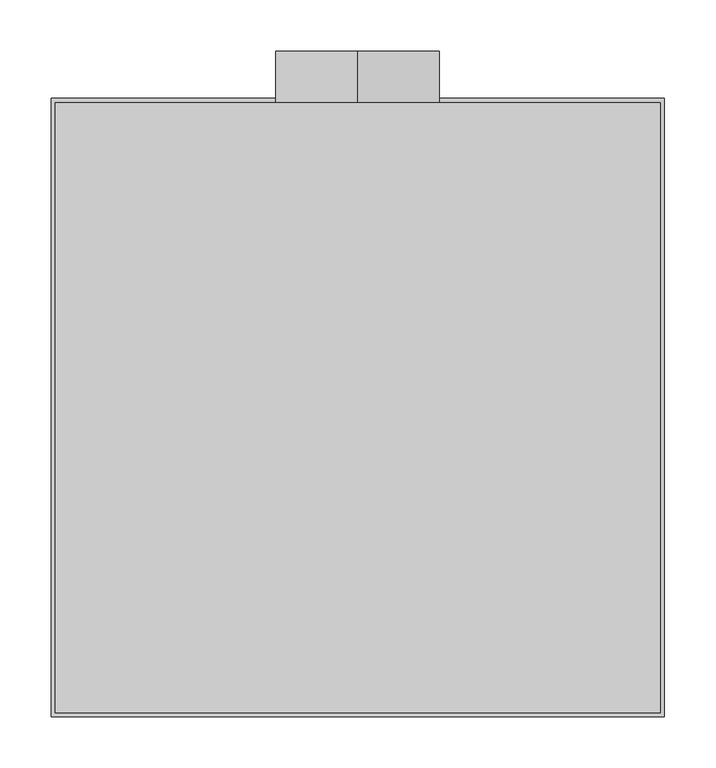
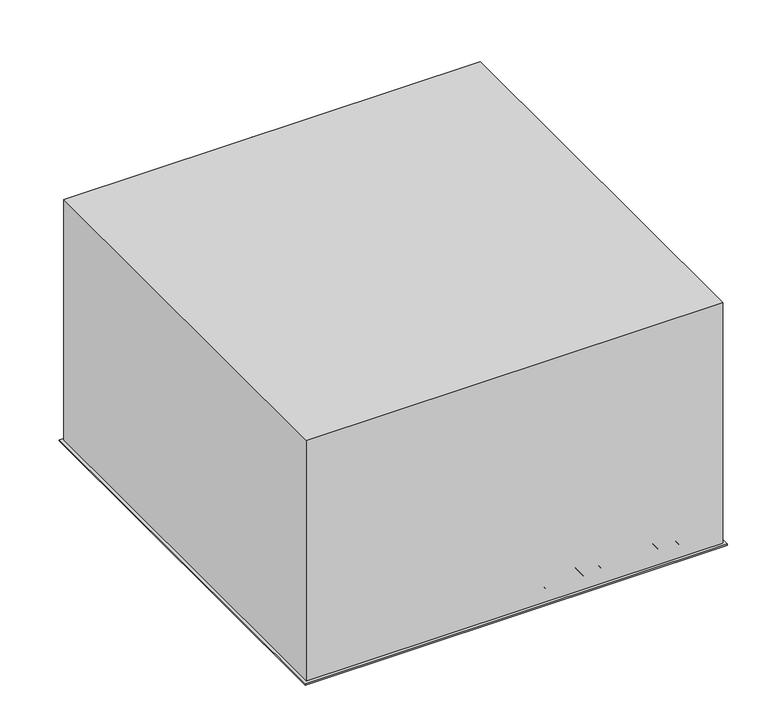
"""IFC4 building model written with IfcOpenShell, lengths in millimetres: air terminal geometry, EOL - plafonnier : EOL-P2-160-600x600."""

from ifc_helpers import new_model, si_unit, point, frame, frame_2d, origin, place, context, project, spatial, polyline, circle_curve, trimmed, segment, composite_curve, outline, extrude, source, transform, mapped, element, save
from ifc_brep_helpers import plane_surface, revolved_surface, advanced_brep


def air_terminal_b541fa91(model_context):
    return source(origin(), model_context, "Body", "SolidModel", [
        extrude(outline(composite_curve([segment(polyline([(1.0, 69.6874144), (2.0025269, 69.6874144)]), True, "CONTINUOUS"), segment(trimmed(circle_curve(frame_2d((31.0266548, 71.7874144)), 29.1), [point((2.0025269, 69.6874144))], [point((26.77286, 43.0))], True, "CARTESIAN"), True, "CONTINUOUS"), segment(polyline([(26.77286, 43.0), (35.0, 43.0), (35.0, 42.0), (26.7, 42.0)]), True, "CONTINUOUS"), segment(trimmed(circle_curve(frame_2d((31.0266548, 71.7874144)), 30.1), [point((26.7, 42.0))], [point((1.0, 69.6874144))], False, "CARTESIAN"), True, "CONTINUOUS")], self_intersect=False)), frame((0.0, 6.1874144, 0.0), z_axis=(0.0, 1.0, 0.0), x_axis=(0.0, 0.0, 1.0)), (0.0, 0.0, 1.0), 572.6251712),
        extrude(outline(composite_curve([segment(polyline([(1.0, 96.6874144), (2.0025269, 96.6874144)]), True, "CONTINUOUS"), segment(trimmed(circle_curve(frame_2d((31.0266548, 98.7874144)), 29.1), [point((2.0025269, 96.6874144))], [point((26.77286, 70.0))], True, "CARTESIAN"), True, "CONTINUOUS"), segment(polyline([(26.77286, 70.0), (35.0, 70.0), (35.0, 69.0), (26.7, 69.0)]), True, "CONTINUOUS"), segment(trimmed(circle_curve(frame_2d((31.0266548, 98.7874144)), 30.1), [point((26.7, 69.0))], [point((1.0, 96.6874144))], False, "CARTESIAN"), True, "CONTINUOUS")], self_intersect=False)), frame((0.0, 6.1874144, 0.0), z_axis=(0.0, 1.0, 0.0), x_axis=(0.0, 0.0, 1.0)), (0.0, 0.0, 1.0), 572.6251712),
        extrude(outline(composite_curve([segment(polyline([(1.0, 123.6874144), (2.0025269, 123.6874144)]), True, "CONTINUOUS"), segment(trimmed(circle_curve(frame_2d((31.0266548, 125.7874144)), 29.1), [point((2.0025269, 123.6874144))], [point((26.77286, 97.0))], True, "CARTESIAN"), True, "CONTINUOUS"), segment(polyline([(26.77286, 97.0), (35.0, 97.0), (35.0, 96.0), (26.7, 96.0)]), True, "CONTINUOUS"), segment(trimmed(circle_curve(frame_2d((31.0266548, 125.7874144)), 30.1), [point((26.7, 96.0))], [point((1.0, 123.6874144))], False, "CARTESIAN"), True, "CONTINUOUS")], self_intersect=False)), frame((0.0, 6.1874144, 0.0), z_axis=(0.0, 1.0, 0.0), x_axis=(0.0, 0.0, 1.0)), (0.0, 0.0, 1.0), 572.6251712),
        extrude(outline(composite_curve([segment(polyline([(1.0, 150.6874144), (2.0025269, 150.6874144)]), True, "CONTINUOUS"), segment(trimmed(circle_curve(frame_2d((31.0266548, 152.7874144)), 29.1), [point((2.0025269, 150.6874144))], [point((26.77286, 124.0))], True, "CARTESIAN"), True, "CONTINUOUS"), segment(polyline([(26.77286, 124.0), (35.0, 124.0), (35.0, 123.0), (26.7, 123.0)]), True, "CONTINUOUS"), segment(trimmed(circle_curve(frame_2d((31.0266548, 152.7874144)), 30.1), [point((26.7, 123.0))], [point((1.0, 150.6874144))], False, "CARTESIAN"), True, "CONTINUOUS")], self_intersect=False)), frame((0.0, 6.1874144, 0.0), z_axis=(0.0, 1.0, 0.0), x_axis=(0.0, 0.0, 1.0)), (0.0, 0.0, 1.0), 572.6251712),
        extrude(outline(composite_curve([segment(polyline([(1.0, 177.6874144), (2.0025269, 177.6874144)]), True, "CONTINUOUS"), segment(trimmed(circle_curve(frame_2d((31.0266548, 179.7874144)), 29.1), [point((2.0025269, 177.6874144))], [point((26.77286, 151.0))], True, "CARTESIAN"), True, "CONTINUOUS"), segment(polyline([(26.77286, 151.0), (35.0, 151.0), (35.0, 150.0), (26.7, 150.0)]), True, "CONTINUOUS"), segment(trimmed(circle_curve(frame_2d((31.0266548, 179.7874144)), 30.1), [point((26.7, 150.0))], [point((1.0, 177.6874144))], False, "CARTESIAN"), True, "CONTINUOUS")], self_intersect=False)), frame((0.0, 6.1874144, 0.0), z_axis=(0.0, 1.0, 0.0), x_axis=(0.0, 0.0, 1.0)), (0.0, 0.0, 1.0), 572.6251712),
        extrude(outline(composite_curve([segment(polyline([(1.0, 204.6874144), (2.0025269, 204.6874144)]), True, "CONTINUOUS"), segment(trimmed(circle_curve(frame_2d((31.0266548, 206.7874144)), 29.1), [point((2.0025269, 204.6874144))], [point((26.77286, 178.0))], True, "CARTESIAN"), True, "CONTINUOUS"), segment(polyline([(26.77286, 178.0), (35.0, 178.0), (35.0, 177.0), (26.7, 177.0)]), True, "CONTINUOUS"), segment(trimmed(circle_curve(frame_2d((31.0266548, 206.7874144)), 30.1), [point((26.7, 177.0))], [point((1.0, 204.6874144))], False, "CARTESIAN"), True, "CONTINUOUS")], self_intersect=False)), frame((0.0, 6.1874144, 0.0), z_axis=(0.0, 1.0, 0.0), x_axis=(0.0, 0.0, 1.0)), (0.0, 0.0, 1.0), 572.6251712),
        extrude(outline(composite_curve([segment(polyline([(1.0, 231.6874144), (2.0025269, 231.6874144)]), True, "CONTINUOUS"), segment(trimmed(circle_curve(frame_2d((31.0266548, 233.7874144)), 29.1), [point((2.0025269, 231.6874144))], [point((26.77286, 205.0))], True, "CARTESIAN"), True, "CONTINUOUS"), segment(polyline([(26.77286, 205.0), (35.0, 205.0), (35.0, 204.0), (26.7, 204.0)]), True, "CONTINUOUS"), segment(trimmed(circle_curve(frame_2d((31.0266548, 233.7874144)), 30.1), [point((26.7, 204.0))], [point((1.0, 231.6874144))], False, "CARTESIAN"), True, "CONTINUOUS")], self_intersect=False)), frame((0.0, 6.1874144, 0.0), z_axis=(0.0, 1.0, 0.0), x_axis=(0.0, 0.0, 1.0)), (0.0, 0.0, 1.0), 572.6251712),
        extrude(outline(composite_curve([segment(polyline([(1.0, 258.6874144), (2.0025269, 258.6874144)]), True, "CONTINUOUS"), segment(trimmed(circle_curve(frame_2d((31.0266548, 260.7874144)), 29.1), [point((2.0025269, 258.6874144))], [point((26.77286, 232.0))], True, "CARTESIAN"), True, "CONTINUOUS"), segment(polyline([(26.77286, 232.0), (35.0, 232.0), (35.0, 231.0), (26.7, 231.0)]), True, "CONTINUOUS"), segment(trimmed(circle_curve(frame_2d((31.0266548, 260.7874144)), 30.1), [point((26.7, 231.0))], [point((1.0, 258.6874144))], False, "CARTESIAN"), True, "CONTINUOUS")], self_intersect=False)), frame((0.0, 6.1874144, 0.0), z_axis=(0.0, 1.0, 0.0), x_axis=(0.0, 0.0, 1.0)), (0.0, 0.0, 1.0), 572.6251712),
        extrude(outline(composite_curve([segment(polyline([(1.0, 285.6874144), (2.0025269, 285.6874144)]), True, "CONTINUOUS"), segment(trimmed(circle_curve(frame_2d((31.0266548, 287.7874144)), 29.1), [point((2.0025269, 285.6874144))], [point((26.77286, 259.0))], True, "CARTESIAN"), True, "CONTINUOUS"), segment(polyline([(26.77286, 259.0), (35.0, 259.0), (35.0, 258.0), (26.7, 258.0)]), True, "CONTINUOUS"), segment(trimmed(circle_curve(frame_2d((31.0266548, 287.7874144)), 30.1), [point((26.7, 258.0))], [point((1.0, 285.6874144))], False, "CARTESIAN"), True, "CONTINUOUS")], self_intersect=False)), frame((0.0, 6.1874144, 0.0), z_axis=(0.0, 1.0, 0.0), x_axis=(0.0, 0.0, 1.0)), (0.0, 0.0, 1.0), 572.6251712),
        extrude(outline(composite_curve([segment(trimmed(circle_curve(frame_2d((31.0266548, -71.7874144)), 30.1), [point((1.0, -69.6874144))], [point((26.7, -42.0))], False, "CARTESIAN"), True, "CONTINUOUS"), segment(polyline([(26.7, -42.0), (35.0, -42.0), (35.0, -43.0), (26.77286, -43.0)]), True, "CONTINUOUS"), segment(trimmed(circle_curve(frame_2d((31.0266548, -71.7874144)), 29.1), [point((26.77286, -43.0))], [point((2.0025269, -69.6874144))], True, "CARTESIAN"), True, "CONTINUOUS"), segment(polyline([(2.0025269, -69.6874144), (1.0, -69.6874144)]), True, "CONTINUOUS")], self_intersect=False)), frame((0.0, 6.1874144, 0.0), z_axis=(0.0, 1.0, 0.0), x_axis=(0.0, 0.0, 1.0)), (0.0, 0.0, 1.0), 572.6251712),
        extrude(outline(composite_curve([segment(trimmed(circle_curve(frame_2d((31.0266548, -98.7874144)), 30.1), [point((1.0, -96.6874144))], [point((26.7, -69.0))], False, "CARTESIAN"), True, "CONTINUOUS"), segment(polyline([(26.7, -69.0), (35.0, -69.0), (35.0, -70.0), (26.77286, -70.0)]), True, "CONTINUOUS"), segment(trimmed(circle_curve(frame_2d((31.0266548, -98.7874144)), 29.1), [point((26.77286, -70.0))], [point((2.0025269, -96.6874144))], True, "CARTESIAN"), True, "CONTINUOUS"), segment(polyline([(2.0025269, -96.6874144), (1.0, -96.6874144)]), True, "CONTINUOUS")], self_intersect=False)), frame((0.0, 6.1874144, 0.0), z_axis=(0.0, 1.0, 0.0), x_axis=(0.0, 0.0, 1.0)), (0.0, 0.0, 1.0), 572.6251712),
        extrude(outline(composite_curve([segment(trimmed(circle_curve(frame_2d((31.0266548, -125.7874144)), 30.1), [point((1.0, -123.6874144))], [point((26.7, -96.0))], False, "CARTESIAN"), True, "CONTINUOUS"), segment(polyline([(26.7, -96.0), (35.0, -96.0), (35.0, -97.0), (26.77286, -97.0)]), True, "CONTINUOUS"), segment(trimmed(circle_curve(frame_2d((31.0266548, -125.7874144)), 29.1), [point((26.77286, -97.0))], [point((2.0025269, -123.6874144))], True, "CARTESIAN"), True, "CONTINUOUS"), segment(polyline([(2.0025269, -123.6874144), (1.0, -123.6874144)]), True, "CONTINUOUS")], self_intersect=False)), frame((0.0, 6.1874144, 0.0), z_axis=(0.0, 1.0, 0.0), x_axis=(0.0, 0.0, 1.0)), (0.0, 0.0, 1.0), 572.6251712),
        extrude(outline(composite_curve([segment(trimmed(circle_curve(frame_2d((31.0266548, -152.7874144)), 30.1), [point((1.0, -150.6874144))], [point((26.7, -123.0))], False, "CARTESIAN"), True, "CONTINUOUS"), segment(polyline([(26.7, -123.0), (35.0, -123.0), (35.0, -124.0), (26.77286, -124.0)]), True, "CONTINUOUS"), segment(trimmed(circle_curve(frame_2d((31.0266548, -152.7874144)), 29.1), [point((26.77286, -124.0))], [point((2.0025269, -150.6874144))], True, "CARTESIAN"), True, "CONTINUOUS"), segment(polyline([(2.0025269, -150.6874144), (1.0, -150.6874144)]), True, "CONTINUOUS")], self_intersect=False)), frame((0.0, 6.1874144, 0.0), z_axis=(0.0, 1.0, 0.0), x_axis=(0.0, 0.0, 1.0)), (0.0, 0.0, 1.0), 572.6251712),
        extrude(outline(composite_curve([segment(trimmed(circle_curve(frame_2d((31.0266548, -179.7874144)), 30.1), [point((1.0, -177.6874144))], [point((26.7, -150.0))], False, "CARTESIAN"), True, "CONTINUOUS"), segment(polyline([(26.7, -150.0), (35.0, -150.0), (35.0, -151.0), (26.77286, -151.0)]), True, "CONTINUOUS"), segment(trimmed(circle_curve(frame_2d((31.0266548, -179.7874144)), 29.1), [point((26.77286, -151.0))], [point((2.0025269, -177.6874144))], True, "CARTESIAN"), True, "CONTINUOUS"), segment(polyline([(2.0025269, -177.6874144), (1.0, -177.6874144)]), True, "CONTINUOUS")], self_intersect=False)), frame((0.0, 6.1874144, 0.0), z_axis=(0.0, 1.0, 0.0), x_axis=(0.0, 0.0, 1.0)), (0.0, 0.0, 1.0), 572.6251712),
        extrude(outline(composite_curve([segment(trimmed(circle_curve(frame_2d((31.0266548, -206.7874144)), 30.1), [point((1.0, -204.6874144))], [point((26.7, -177.0))], False, "CARTESIAN"), True, "CONTINUOUS"), segment(polyline([(26.7, -177.0), (35.0, -177.0), (35.0, -178.0), (26.77286, -178.0)]), True, "CONTINUOUS"), segment(trimmed(circle_curve(frame_2d((31.0266548, -206.7874144)), 29.1), [point((26.77286, -178.0))], [point((2.0025269, -204.6874144))], True, "CARTESIAN"), True, "CONTINUOUS"), segment(polyline([(2.0025269, -204.6874144), (1.0, -204.6874144)]), True, "CONTINUOUS")], self_intersect=False)), frame((0.0, 6.1874144, 0.0), z_axis=(0.0, 1.0, 0.0), x_axis=(0.0, 0.0, 1.0)), (0.0, 0.0, 1.0), 572.6251712),
        extrude(outline(composite_curve([segment(trimmed(circle_curve(frame_2d((31.0266548, -233.7874144)), 30.1), [point((1.0, -231.6874144))], [point((26.7, -204.0))], False, "CARTESIAN"), True, "CONTINUOUS"), segment(polyline([(26.7, -204.0), (35.0, -204.0), (35.0, -205.0), (26.77286, -205.0)]), True, "CONTINUOUS"), segment(trimmed(circle_curve(frame_2d((31.0266548, -233.7874144)), 29.1), [point((26.77286, -205.0))], [point((2.0025269, -231.6874144))], True, "CARTESIAN"), True, "CONTINUOUS"), segment(polyline([(2.0025269, -231.6874144), (1.0, -231.6874144)]), True, "CONTINUOUS")], self_intersect=False)), frame((0.0, 6.1874144, 0.0), z_axis=(0.0, 1.0, 0.0), x_axis=(0.0, 0.0, 1.0)), (0.0, 0.0, 1.0), 572.6251712),
        extrude(outline(composite_curve([segment(trimmed(circle_curve(frame_2d((31.0266548, -260.7874144)), 30.1), [point((1.0, -258.6874144))], [point((26.7, -231.0))], False, "CARTESIAN"), True, "CONTINUOUS"), segment(polyline([(26.7, -231.0), (35.0, -231.0), (35.0, -232.0), (26.77286, -232.0)]), True, "CONTINUOUS"), segment(trimmed(circle_curve(frame_2d((31.0266548, -260.7874144)), 29.1), [point((26.77286, -232.0))], [point((2.0025269, -258.6874144))], True, "CARTESIAN"), True, "CONTINUOUS"), segment(polyline([(2.0025269, -258.6874144), (1.0, -258.6874144)]), True, "CONTINUOUS")], self_intersect=False)), frame((0.0, 6.1874144, 0.0), z_axis=(0.0, 1.0, 0.0), x_axis=(0.0, 0.0, 1.0)), (0.0, 0.0, 1.0), 572.6251712),
        extrude(outline(polyline([(42.0, 578.8125856), (42.0, 6.1874144), (-42.0, 6.1874144), (-42.0, 578.8125856), (42.0, 578.8125856)])), frame((0.0, 0.0, 1.0), z_axis=(0.0, 0.0, 1.0), x_axis=(1.0, 0.0, 0.0)), (0.0, 0.0, 1.0), 1.0025269),
        extrude(outline(composite_curve([segment(trimmed(circle_curve(frame_2d((31.0266548, -287.7874144)), 30.1), [point((1.0, -285.6874144))], [point((26.7, -258.0))], False, "CARTESIAN"), True, "CONTINUOUS"), segment(polyline([(26.7, -258.0), (35.0, -258.0), (35.0, -259.0), (26.77286, -259.0)]), True, "CONTINUOUS"), segment(trimmed(circle_curve(frame_2d((31.0266548, -287.7874144)), 29.1), [point((26.77286, -259.0))], [point((2.0025269, -285.6874144))], True, "CARTESIAN"), True, "CONTINUOUS"), segment(polyline([(2.0025269, -285.6874144), (1.0, -285.6874144)]), True, "CONTINUOUS")], self_intersect=False)), frame((0.0, 6.1874144, 0.0), z_axis=(0.0, 1.0, 0.0), x_axis=(0.0, 0.0, 1.0)), (0.0, 0.0, 1.0), 572.6251712),
        extrude(outline(polyline([(299.0, 594.0), (299.0, -9.0), (-299.0, -9.0), (-299.0, 594.0), (299.0, 594.0)]), holes=[polyline([(290.0, 585.0), (-290.0, 585.0), (-290.0, 0.0), (290.0, 0.0), (290.0, 585.0)])]), frame((0.0, 0.0, -2.0), z_axis=(0.0, 0.0, 1.0), x_axis=(1.0, 0.0, 0.0)), (0.0, 0.0, 1.0), 2.0),
        extrude(outline(composite_curve([segment(trimmed(circle_curve(frame_2d((241.0, 0.0)), 80.0), [point((161.0, 0.0))], [point((321.0, 0.0))], False, "CARTESIAN"), True, "CONTINUOUS"), segment(trimmed(circle_curve(frame_2d((241.0, 0.0)), 80.0), [point((321.0, 0.0))], [point((161.0, 0.0))], False, "CARTESIAN"), True, "CONTINUOUS")], self_intersect=False), holes=[composite_curve([segment(trimmed(circle_curve(frame_2d((241.0, 0.0)), 79.0), [point((241.0, 79.0))], [point((241.0, -79.0))], True, "CARTESIAN"), True, "CONTINUOUS"), segment(trimmed(circle_curve(frame_2d((241.0, 0.0)), 79.0), [point((241.0, -79.0))], [point((241.0, 79.0))], True, "CARTESIAN"), True, "CONTINUOUS")], self_intersect=False)]), frame((0.0, 590.0, 0.0), z_axis=(0.0, 1.0, 0.0), x_axis=(0.0, 0.0, 1.0)), (0.0, 0.0, 1.0), 50.0),
        advanced_brep(
        [(295.0, 590.0, 361.0), (-295.0, 590.0, 361.0), (-295.0, -5.0, 361.0), (295.0, -5.0, 361.0), (295.0, 590.0, 0.0), (295.0, -5.0, 0.0), (-295.0, -5.0, 0.0), (-295.0, 590.0, 0.0), (290.0, 585.0, 0.0), (-290.0, 585.0, 0.0), (-290.0, 0.0, 0.0), (290.0, 0.0, 0.0), (-79.0, 590.0, 241.0), (79.0, 590.0, 241.0), (290.0, 585.0, 356.0), (290.0, 0.0, 356.0), (-290.0, 0.0, 356.0), (-290.0, 585.0, 356.0), (79.0, 585.0, 241.0), (-79.0, 585.0, 241.0)],
        [
            (0, 1),
            (1, 2),
            (2, 3),
            (3, 0),
            (4, 5),
            (5, 6),
            (6, 7),
            (7, 4),
            (8, 9),
            (9, 10),
            (10, 11),
            (11, 8),
            (0, 4),
            (7, 1),
            (12, 13, circle_curve(frame((0.0, 590.0, 241.0), z_axis=(0.0, -1.0, 0.0), x_axis=(1.0, 0.0, 0.0)), 79.0)),
            (13, 12, circle_curve(frame((0.0, 590.0, 241.0), z_axis=(0.0, -1.0, 0.0), x_axis=(1.0, 0.0, 0.0)), 79.0)),
            (6, 2),
            (5, 3),
            (14, 15),
            (15, 16),
            (16, 17),
            (17, 14),
            (17, 9),
            (8, 14),
            (18, 19, circle_curve(frame((0.0, 585.0, 241.0), z_axis=(0.0, 1.0, 0.0), x_axis=(1.0, 0.0, 0.0)), 79.0)),
            (19, 18, circle_curve(frame((0.0, 585.0, 241.0), z_axis=(0.0, 1.0, 0.0), x_axis=(1.0, 0.0, 0.0)), 79.0)),
            (16, 10),
            (15, 11),
            (12, 19),
            (18, 13),
        ],
        [
            plane_surface(frame((-295.0, 590.0, 361.0), z_axis=(0.0, 0.0, 1.0), x_axis=(-1.0, 0.0, 0.0))),
            plane_surface(frame((-295.0, 590.0, 0.0), z_axis=(0.0, 0.0, -1.0), x_axis=(1.0, 0.0, 0.0))),
            plane_surface(frame((295.0, 590.0, 361.0), z_axis=(0.0, 1.0, 0.0), x_axis=(0.0, 0.0, -1.0))),
            plane_surface(frame((-295.0, 590.0, 361.0), z_axis=(-1.0, 0.0, 0.0), x_axis=(0.0, 0.0, -1.0))),
            plane_surface(frame((-295.0, -5.0, 361.0), z_axis=(0.0, -1.0, 0.0), x_axis=(0.0, 0.0, -1.0))),
            plane_surface(frame((295.0, -5.0, 361.0), z_axis=(1.0, 0.0, 0.0), x_axis=(0.0, 0.0, -1.0))),
            plane_surface(frame((-290.0, 585.0, 356.0), z_axis=(0.0, 0.0, -1.0), x_axis=(-1.0, 0.0, 0.0))),
            plane_surface(frame((290.0, 585.0, 356.0), z_axis=(0.0, -1.0, 0.0), x_axis=(0.0, 0.0, -1.0))),
            plane_surface(frame((-290.0, 585.0, 356.0), z_axis=(1.0, 0.0, 0.0), x_axis=(0.0, 0.0, -1.0))),
            plane_surface(frame((-290.0, 0.0, 356.0), z_axis=(0.0, 1.0, 0.0), x_axis=(0.0, 0.0, -1.0))),
            plane_surface(frame((290.0, 0.0, 356.0), z_axis=(-1.0, 0.0, 0.0), x_axis=(0.0, 0.0, -1.0))),
            revolved_surface(polyline([(79.0, 585.0, 241.0), (79.0, 590.0, 241.0)]), (0.0, 640.0, 241.0), (0.0, -1.0, 0.0)),
        ],
        [
            (0, [[1, 2, 3, 4]]),
            (1, [[5, 6, 7, 8], [9, 10, 11, 12]]),
            (2, [[-1, 13, -8, 14], [15, 16]]),
            (3, [[-2, -14, -7, 17]]),
            (4, [[-3, -17, -6, 18]]),
            (5, [[-4, -18, -5, -13]]),
            (6, [[19, 20, 21, 22]]),
            (7, [[-22, 23, -9, 24], [25, 26]]),
            (8, [[-21, 27, -10, -23]]),
            (9, [[-20, 28, -11, -27]]),
            (10, [[-19, -24, -12, -28]]),
            (11, [[29, -25, 30, -15]]),
            (11, [[-29, -16, -30, -26]]),
        ],
    ),
    ])


if __name__ == "__main__":
    model = new_model("IFC4")
    model_context = context("Model", 3, world=origin())
    ifc_project = project(units=[si_unit("LENGTHUNIT", "METRE", prefix="MILLI")], contexts=[model_context])
    site = spatial("IfcSite", under=ifc_project)
    building = spatial("IfcBuilding", under=site)
    placement = place(None, origin())
    air_terminal_shape = air_terminal_b541fa91(model_context)
    element("IfcAirTerminal", 1, ObjectType="EOL - plafonnier : EOL-P2-160-600x600", at=placement, inside=building, context=model_context, shape_type="MappedRepresentation", body=[
        mapped(air_terminal_shape, transform((0.0, 0.0, 0.0), x_axis=(1.0, 0.0, 0.0), y_axis=(0.0, 1.0, 0.0), z_axis=(0.0, 0.0, 1.0))),
    ])
    save(model, "model.ifc")
